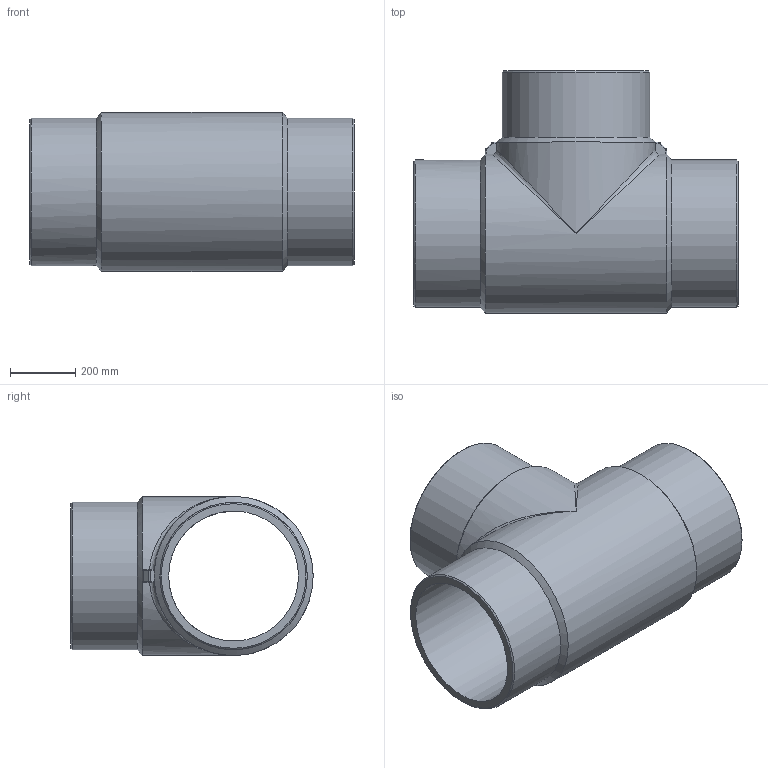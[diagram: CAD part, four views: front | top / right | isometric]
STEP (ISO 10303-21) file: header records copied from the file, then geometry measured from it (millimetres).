
FILE_DESCRIPTION(/* description */ ('Unknown'),/* implementation_level */ '2;1');
FILE_NAME(/* name */ 'TP450B',/* time_stamp */ '2022-06-06T17:17:03+02:00',/* author */ ('Unknown'),/* organization */ ('Unknown'),/* preprocessor_version */ 'ST-DEVELOPER v18.102',/* originating_system */ 'Solid Edge',/* authorisation */ 'Unknown');
FILE_SCHEMA (('AUTOMOTIVE_DESIGN {1 0 10303 214 3 1 1}'));
Length unit declared in the file: millimetre
Products named in the file (1): TP450B
Bounding box: 990 x 740 x 486 mm (x, y, z)
Volume: 58054801.7 mm3; surface area: 3398657.2 mm2
Topology: 1 solids, 1 shells, 55 faces, 136 edges, 78 vertices
Faces by surface type: cylinder 24, plane 13, torus 8, cone 6, bspline 4
Full cylindrical faces by diameter (mm): 396.6 x2, 450 x3
Entity records: 1668 total; most frequent: CARTESIAN_POINT 438, DIRECTION 268, ORIENTED_EDGE 228, EDGE_CURVE 114, AXIS2_PLACEMENT_3D 114, VERTEX_POINT 72, EDGE_LOOP 70, FACE_BOUND 70
